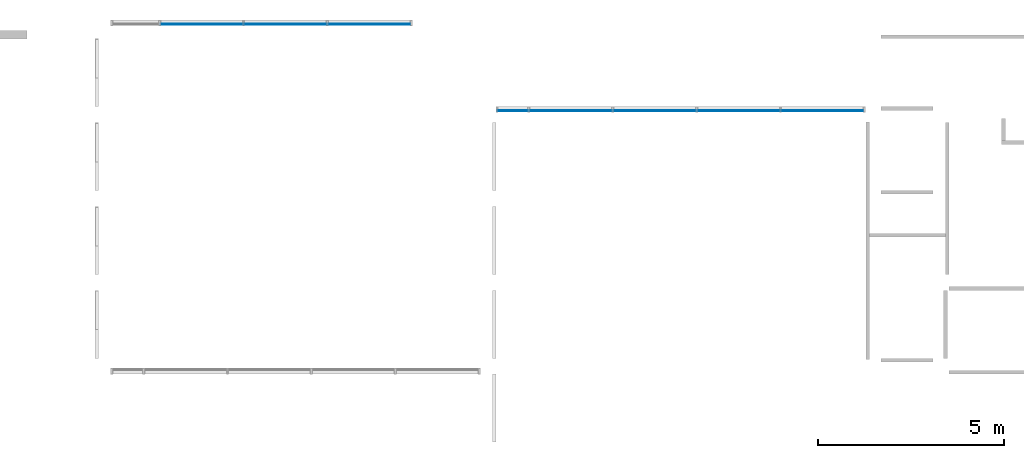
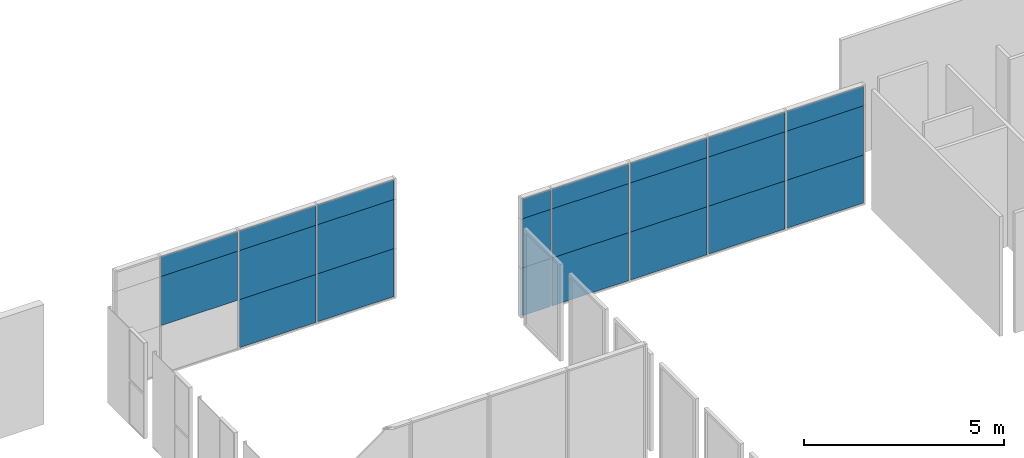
# One storey, part 9 of 15: 23 plates, 2 elements without a shape of their own.
"""IFC2X3 building model written with IfcOpenShell, lengths in millimetres."""

from ifc_helpers import new_model, entity, si_unit, converted_unit, derived_unit, direction, frame, origin, origin_2d_with_axis, place, context, subcontext, project, spatial, rectangle, extrude, source, transform, mapped, material, type_object, type_shapes, element, aggregate, save


model = new_model("IFC2X3")

# Units and contexts
model_context = context("Model", 3, precision=0.01, world=origin(), true_north=direction((6.12303176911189e-17, 1.0)))
body_context = subcontext(model_context, "Body", "Model", "MODEL_VIEW")
ifc_project = project(units=[si_unit("LENGTHUNIT", "METRE", prefix="MILLI"), si_unit("AREAUNIT", "SQUARE_METRE"), si_unit("VOLUMEUNIT", "CUBIC_METRE"), converted_unit("PLANEANGLEUNIT", "DEGREE", entity("IfcRatioMeasure", 0.0174532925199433), si_unit("PLANEANGLEUNIT", "RADIAN"), dimensions=[0, 0, 0, 0, 0, 0, 0]), si_unit("MASSUNIT", "GRAM", prefix="KILO"), derived_unit("MASSDENSITYUNIT", [(si_unit("MASSUNIT", "GRAM", prefix="KILO"), 1), (si_unit("LENGTHUNIT", "METRE"), -3)]), derived_unit("MOMENTOFINERTIAUNIT", [(si_unit("LENGTHUNIT", "METRE"), 4)]), si_unit("TIMEUNIT", "SECOND"), si_unit("FREQUENCYUNIT", "HERTZ"), si_unit("THERMODYNAMICTEMPERATUREUNIT", "DEGREE_CELSIUS"), derived_unit("THERMALTRANSMITTANCEUNIT", [(si_unit("MASSUNIT", "GRAM", prefix="KILO"), 1), (si_unit("THERMODYNAMICTEMPERATUREUNIT", "KELVIN"), -1), (si_unit("TIMEUNIT", "SECOND"), -3)]), derived_unit("VOLUMETRICFLOWRATEUNIT", [(si_unit("LENGTHUNIT", "METRE"), 3), (si_unit("TIMEUNIT", "SECOND"), -1)]), si_unit("ELECTRICCURRENTUNIT", "AMPERE"), si_unit("ELECTRICVOLTAGEUNIT", "VOLT"), si_unit("POWERUNIT", "WATT"), si_unit("FORCEUNIT", "NEWTON", prefix="KILO"), si_unit("ILLUMINANCEUNIT", "LUX"), si_unit("LUMINOUSFLUXUNIT", "LUMEN"), si_unit("LUMINOUSINTENSITYUNIT", "CANDELA"), derived_unit("USERDEFINED", [(si_unit("MASSUNIT", "GRAM", prefix="KILO"), -1), (si_unit("LENGTHUNIT", "METRE"), -2), (si_unit("TIMEUNIT", "SECOND"), 3), (si_unit("LUMINOUSFLUXUNIT", "LUMEN"), 1)]), derived_unit("LINEARVELOCITYUNIT", [(si_unit("LENGTHUNIT", "METRE"), 1), (si_unit("TIMEUNIT", "SECOND"), -1)]), si_unit("PRESSUREUNIT", "PASCAL"), derived_unit("USERDEFINED", [(si_unit("LENGTHUNIT", "METRE"), -2), (si_unit("MASSUNIT", "GRAM", prefix="KILO"), 1), (si_unit("TIMEUNIT", "SECOND"), -2)]), derived_unit("LINEARFORCEUNIT", [(si_unit("MASSUNIT", "GRAM", prefix="KILO"), 1), (si_unit("LENGTHUNIT", "METRE"), 1), (si_unit("TIMEUNIT", "SECOND"), -2), (si_unit("LENGTHUNIT", "METRE"), -1)]), derived_unit("PLANARFORCEUNIT", [(si_unit("MASSUNIT", "GRAM", prefix="KILO"), 1), (si_unit("LENGTHUNIT", "METRE"), 1), (si_unit("TIMEUNIT", "SECOND"), -2), (si_unit("LENGTHUNIT", "METRE"), -2)])], contexts=[model_context])

# Site, building, storey
site_placement = place(None, frame((10627.5135316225, 21939.0796949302, 0.0)))
site = spatial("IfcSite", under=ifc_project, at=site_placement, Name="Default", CompositionType="ELEMENT")
building_placement = place(site_placement, origin())
building = spatial("IfcBuilding", under=site, at=building_placement, CompositionType="ELEMENT")
storey_placement = place(building_placement, origin())
storey = spatial("IfcBuildingStorey", under=building, at=storey_placement, Name="RDC", CompositionType="ELEMENT", Elevation=0.0)

# Curtain wall, plates
curtain_wall_type = type_object("IfcCurtainWallType", Name="Curtain Wall:Curtain_Wall-Empty", PredefinedType="NOTDEFINED")
curtain_wall_1_placement = place(storey_placement, origin())
curtain_wall_1 = element("IfcCurtainWall", 1, at=curtain_wall_1_placement, inside=storey, type_object=curtain_wall_type, Name="Curtain Wall:Curtain_Wall-Empty", ObjectType="Curtain Wall:Curtain_Wall-Empty")
ifc_material = material(Name="Glass")
plate_type_1 = type_object("IfcPlateType", Name="System Panel:Glazed", PredefinedType="CURTAIN_PANEL", material=ifc_material)
shared_shape_1 = source(origin(), body_context, "Body", "SweptSolid", [
    extrude(rectangle(XDim=25.0, YDim=2210.0000003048, at=origin_2d_with_axis()), frame((0.0, 37.0, 0.0), z_axis=(0.0, 0.0, 1.0), x_axis=(0.0, 1.0, 0.0)), (0.0, 0.0, 1.0), 1465.0),
])
type_shapes(plate_type_1, [shared_shape_1])
plate_1_placement = place(curtain_wall_1_placement, frame((37992.486468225, 16695.9203050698, 50.0), z_axis=(0.0, 0.0, 1.0), x_axis=(-1.0, 0.0, 0.0)))
plate_1 = element("IfcPlate", 2, at=plate_1_placement, type_object=plate_type_1, material=ifc_material, Name="System Panel:Glazed", ObjectType="System Panel:Glazed", context=body_context, shape_type="MappedRepresentation", body=[
    mapped(shared_shape_1, transform((0.0, 0.0, 0.0), scale=1.0)),
])
plate_2_placement = place(curtain_wall_1_placement, frame((35732.4864680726, 16695.9203050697, 50.0), z_axis=(0.0, 0.0, 1.0), x_axis=(-1.0, 0.0, 0.0)))
plate_2 = element("IfcPlate", 3, at=plate_2_placement, type_object=plate_type_1, material=ifc_material, Name="System Panel:Glazed", ObjectType="System Panel:Glazed", context=body_context, shape_type="MappedRepresentation", body=[
    mapped(shared_shape_1, transform((0.0, 0.0, 0.0), scale=1.0)),
])

curtain_wall_2_placement = place(storey_placement, origin())
curtain_wall_2 = element("IfcCurtainWall", 4, at=curtain_wall_2_placement, inside=storey, type_object=curtain_wall_type, Name="Curtain Wall:Curtain_Wall-Empty", ObjectType="Curtain Wall:Curtain_Wall-Empty")
plate_3_placement = place(curtain_wall_2_placement, frame((50202.486468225, 14360.9203050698, 50.0), z_axis=(0.0, 0.0, 1.0), x_axis=(-1.0, 0.0, 0.0)))
plate_3 = element("IfcPlate", 5, at=plate_3_placement, type_object=plate_type_1, material=ifc_material, Name="System Panel:Glazed", ObjectType="System Panel:Glazed", context=body_context, shape_type="MappedRepresentation", body=[
    mapped(shared_shape_1, transform((0.0, 0.0, 0.0), scale=1.0)),
])
plate_4_placement = place(curtain_wall_2_placement, frame((47942.4864680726, 14360.9203050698, 50.0), z_axis=(0.0, 0.0, 1.0), x_axis=(-1.0, 0.0, 0.0)))
plate_4 = element("IfcPlate", 6, at=plate_4_placement, type_object=plate_type_1, material=ifc_material, Name="System Panel:Glazed", ObjectType="System Panel:Glazed", context=body_context, shape_type="MappedRepresentation", body=[
    mapped(shared_shape_1, transform((0.0, 0.0, 0.0), scale=1.0)),
])
plate_5_placement = place(curtain_wall_2_placement, frame((45682.4864680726, 14360.9203050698, 50.0), z_axis=(0.0, 0.0, 1.0), x_axis=(-1.0, 0.0, 0.0)))
plate_5 = element("IfcPlate", 7, at=plate_5_placement, type_object=plate_type_1, material=ifc_material, Name="System Panel:Glazed", ObjectType="System Panel:Glazed", context=body_context, shape_type="MappedRepresentation", body=[
    mapped(shared_shape_1, transform((0.0, 0.0, 0.0), scale=1.0)),
])
plate_6_placement = place(curtain_wall_2_placement, frame((43422.4864680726, 14360.9203050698, 50.0), z_axis=(0.0, 0.0, 1.0), x_axis=(-1.0, 0.0, 0.0)))
plate_6 = element("IfcPlate", 8, at=plate_6_placement, type_object=plate_type_1, material=ifc_material, Name="System Panel:Glazed", ObjectType="System Panel:Glazed", context=body_context, shape_type="MappedRepresentation", body=[
    mapped(shared_shape_1, transform((0.0, 0.0, 0.0), scale=1.0)),
])

# Plate
plate_type_2 = type_object("IfcPlateType", Name="System Panel:Glazed", PredefinedType="CURTAIN_PANEL", material=ifc_material)
shared_shape_2 = source(origin(), body_context, "Body", "SweptSolid", [
    extrude(rectangle(XDim=25.0, YDim=2210.0000003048, at=origin_2d_with_axis()), frame((0.0, 37.0, 0.0), z_axis=(0.0, 0.0, 1.0), x_axis=(0.0, 1.0, 0.0)), (0.0, 0.0, 1.0), 1500.0),
])
type_shapes(plate_type_2, [shared_shape_2])
plate_7_placement = place(curtain_wall_1_placement, frame((37992.486468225, 16695.9203050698, 1515.0), z_axis=(0.0, 0.0, 1.0), x_axis=(-1.0, 0.0, 0.0)))
plate_7 = element("IfcPlate", 9, at=plate_7_placement, type_object=plate_type_2, material=ifc_material, Name="System Panel:Glazed", ObjectType="System Panel:Glazed", context=body_context, shape_type="MappedRepresentation", body=[
    mapped(shared_shape_2, transform((0.0, 0.0, 0.0), scale=1.0)),
])

plate_8_placement = place(curtain_wall_1_placement, frame((35732.4864680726, 16695.9203050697, 1515.0), z_axis=(0.0, 0.0, 1.0), x_axis=(-1.0, 0.0, 0.0)))
plate_8 = element("IfcPlate", 10, at=plate_8_placement, type_object=plate_type_2, material=ifc_material, Name="System Panel:Glazed", ObjectType="System Panel:Glazed", context=body_context, shape_type="MappedRepresentation", body=[
    mapped(shared_shape_2, transform((0.0, 0.0, 0.0), scale=1.0)),
])

plate_9_placement = place(curtain_wall_1_placement, frame((33472.4864680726, 16695.9203050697, 1515.0), z_axis=(0.0, 0.0, 1.0), x_axis=(-1.0, 0.0, 0.0)))
plate_9 = element("IfcPlate", 11, at=plate_9_placement, type_object=plate_type_2, material=ifc_material, Name="System Panel:Glazed", ObjectType="System Panel:Glazed", context=body_context, shape_type="MappedRepresentation", body=[
    mapped(shared_shape_2, transform((0.0, 0.0, 0.0), scale=1.0)),
])

plate_10_placement = place(curtain_wall_2_placement, frame((50202.486468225, 14360.9203050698, 1515.0), z_axis=(0.0, 0.0, 1.0), x_axis=(-1.0, 0.0, 0.0)))
plate_10 = element("IfcPlate", 12, at=plate_10_placement, type_object=plate_type_2, material=ifc_material, Name="System Panel:Glazed", ObjectType="System Panel:Glazed", context=body_context, shape_type="MappedRepresentation", body=[
    mapped(shared_shape_2, transform((0.0, 0.0, 0.0), scale=1.0)),
])

plate_11_placement = place(curtain_wall_2_placement, frame((47942.4864680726, 14360.9203050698, 1515.0), z_axis=(0.0, 0.0, 1.0), x_axis=(-1.0, 0.0, 0.0)))
plate_11 = element("IfcPlate", 13, at=plate_11_placement, type_object=plate_type_2, material=ifc_material, Name="System Panel:Glazed", ObjectType="System Panel:Glazed", context=body_context, shape_type="MappedRepresentation", body=[
    mapped(shared_shape_2, transform((0.0, 0.0, 0.0), scale=1.0)),
])

plate_12_placement = place(curtain_wall_2_placement, frame((45682.4864680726, 14360.9203050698, 1515.0), z_axis=(0.0, 0.0, 1.0), x_axis=(-1.0, 0.0, 0.0)))
plate_12 = element("IfcPlate", 14, at=plate_12_placement, type_object=plate_type_2, material=ifc_material, Name="System Panel:Glazed", ObjectType="System Panel:Glazed", context=body_context, shape_type="MappedRepresentation", body=[
    mapped(shared_shape_2, transform((0.0, 0.0, 0.0), scale=1.0)),
])

plate_13_placement = place(curtain_wall_2_placement, frame((43422.4864680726, 14360.9203050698, 1515.0), z_axis=(0.0, 0.0, 1.0), x_axis=(-1.0, 0.0, 0.0)))
plate_13 = element("IfcPlate", 15, at=plate_13_placement, type_object=plate_type_2, material=ifc_material, Name="System Panel:Glazed", ObjectType="System Panel:Glazed", context=body_context, shape_type="MappedRepresentation", body=[
    mapped(shared_shape_2, transform((0.0, 0.0, 0.0), scale=1.0)),
])

plate_type_3 = type_object("IfcPlateType", Name="System Panel:Glazed", PredefinedType="CURTAIN_PANEL", material=ifc_material)
shared_shape_3 = source(origin(), body_context, "Body", "SweptSolid", [
    extrude(rectangle(XDim=25.0, YDim=2210.0000003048, at=origin_2d_with_axis()), frame((0.0, 37.0, 0.0), z_axis=(0.0, 0.0, 1.0), x_axis=(0.0, 1.0, 0.0)), (0.0, 0.0, 1.0), 595.0),
])
type_shapes(plate_type_3, [shared_shape_3])
plate_14_placement = place(curtain_wall_1_placement, frame((37992.486468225, 16695.9203050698, 3015.0), z_axis=(0.0, 0.0, 1.0), x_axis=(-1.0, 0.0, 0.0)))
plate_14 = element("IfcPlate", 16, at=plate_14_placement, type_object=plate_type_3, material=ifc_material, Name="System Panel:Glazed", ObjectType="System Panel:Glazed", context=body_context, shape_type="MappedRepresentation", body=[
    mapped(shared_shape_3, transform((0.0, 0.0, 0.0), scale=1.0)),
])

plate_15_placement = place(curtain_wall_1_placement, frame((35732.4864680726, 16695.9203050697, 3015.0), z_axis=(0.0, 0.0, 1.0), x_axis=(-1.0, 0.0, 0.0)))
plate_15 = element("IfcPlate", 17, at=plate_15_placement, type_object=plate_type_3, material=ifc_material, Name="System Panel:Glazed", ObjectType="System Panel:Glazed", context=body_context, shape_type="MappedRepresentation", body=[
    mapped(shared_shape_3, transform((0.0, 0.0, 0.0), scale=1.0)),
])

plate_16_placement = place(curtain_wall_1_placement, frame((33472.4864680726, 16695.9203050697, 3015.0), z_axis=(0.0, 0.0, 1.0), x_axis=(-1.0, 0.0, 0.0)))
plate_16 = element("IfcPlate", 18, at=plate_16_placement, type_object=plate_type_3, material=ifc_material, Name="System Panel:Glazed", ObjectType="System Panel:Glazed", context=body_context, shape_type="MappedRepresentation", body=[
    mapped(shared_shape_3, transform((0.0, 0.0, 0.0), scale=1.0)),
])

aggregate(curtain_wall_1, [plate_1, plate_2, plate_7, plate_8, plate_9, plate_14, plate_15, plate_16])

plate_17_placement = place(curtain_wall_2_placement, frame((50202.486468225, 14360.9203050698, 3015.0), z_axis=(0.0, 0.0, 1.0), x_axis=(-1.0, 0.0, 0.0)))
plate_17 = element("IfcPlate", 19, at=plate_17_placement, type_object=plate_type_3, material=ifc_material, Name="System Panel:Glazed", ObjectType="System Panel:Glazed", context=body_context, shape_type="MappedRepresentation", body=[
    mapped(shared_shape_3, transform((0.0, 0.0, 0.0), scale=1.0)),
])

plate_18_placement = place(curtain_wall_2_placement, frame((47942.4864680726, 14360.9203050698, 3015.0), z_axis=(0.0, 0.0, 1.0), x_axis=(-1.0, 0.0, 0.0)))
plate_18 = element("IfcPlate", 20, at=plate_18_placement, type_object=plate_type_3, material=ifc_material, Name="System Panel:Glazed", ObjectType="System Panel:Glazed", context=body_context, shape_type="MappedRepresentation", body=[
    mapped(shared_shape_3, transform((0.0, 0.0, 0.0), scale=1.0)),
])

plate_19_placement = place(curtain_wall_2_placement, frame((45682.4864680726, 14360.9203050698, 3015.0), z_axis=(0.0, 0.0, 1.0), x_axis=(-1.0, 0.0, 0.0)))
plate_19 = element("IfcPlate", 21, at=plate_19_placement, type_object=plate_type_3, material=ifc_material, Name="System Panel:Glazed", ObjectType="System Panel:Glazed", context=body_context, shape_type="MappedRepresentation", body=[
    mapped(shared_shape_3, transform((0.0, 0.0, 0.0), scale=1.0)),
])

plate_20_placement = place(curtain_wall_2_placement, frame((43422.4864680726, 14360.9203050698, 3015.0), z_axis=(0.0, 0.0, 1.0), x_axis=(-1.0, 0.0, 0.0)))
plate_20 = element("IfcPlate", 22, at=plate_20_placement, type_object=plate_type_3, material=ifc_material, Name="System Panel:Glazed", ObjectType="System Panel:Glazed", context=body_context, shape_type="MappedRepresentation", body=[
    mapped(shared_shape_3, transform((0.0, 0.0, 0.0), scale=1.0)),
])

plate_type_4 = type_object("IfcPlateType", Name="System Panel:Glazed", PredefinedType="CURTAIN_PANEL", material=ifc_material)
shared_shape_4 = source(origin(), body_context, "Body", "SweptSolid", [
    extrude(rectangle(XDim=25.0, YDim=809.999999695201, at=origin_2d_with_axis()), frame((0.0, 37.0, 0.0), z_axis=(0.0, 0.0, 1.0), x_axis=(0.0, 1.0, 0.0)), (0.0, 0.0, 1.0), 1465.0),
])
type_shapes(plate_type_4, [shared_shape_4])
plate_21_placement = place(curtain_wall_2_placement, frame((41862.486468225, 14360.9203050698, 50.0), z_axis=(0.0, 0.0, 1.0), x_axis=(-1.0, 0.0, 0.0)))
plate_21 = element("IfcPlate", 23, at=plate_21_placement, type_object=plate_type_4, material=ifc_material, Name="System Panel:Glazed", ObjectType="System Panel:Glazed", context=body_context, shape_type="MappedRepresentation", body=[
    mapped(shared_shape_4, transform((0.0, 0.0, 0.0), scale=1.0)),
])

plate_type_5 = type_object("IfcPlateType", Name="System Panel:Glazed", PredefinedType="CURTAIN_PANEL", material=ifc_material)
shared_shape_5 = source(origin(), body_context, "Body", "SweptSolid", [
    extrude(rectangle(XDim=25.0, YDim=809.999999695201, at=origin_2d_with_axis()), frame((0.0, 37.0, 0.0), z_axis=(0.0, 0.0, 1.0), x_axis=(0.0, 1.0, 0.0)), (0.0, 0.0, 1.0), 1500.0),
])
type_shapes(plate_type_5, [shared_shape_5])
plate_22_placement = place(curtain_wall_2_placement, frame((41862.486468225, 14360.9203050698, 1515.0), z_axis=(0.0, 0.0, 1.0), x_axis=(-1.0, 0.0, 0.0)))
plate_22 = element("IfcPlate", 24, at=plate_22_placement, type_object=plate_type_5, material=ifc_material, Name="System Panel:Glazed", ObjectType="System Panel:Glazed", context=body_context, shape_type="MappedRepresentation", body=[
    mapped(shared_shape_5, transform((0.0, 0.0, 0.0), scale=1.0)),
])

plate_type_6 = type_object("IfcPlateType", Name="System Panel:Glazed", PredefinedType="CURTAIN_PANEL", material=ifc_material)
shared_shape_6 = source(origin(), body_context, "Body", "SweptSolid", [
    extrude(rectangle(XDim=25.0, YDim=809.999999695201, at=origin_2d_with_axis()), frame((0.0, 37.0, 0.0), z_axis=(0.0, 0.0, 1.0), x_axis=(0.0, 1.0, 0.0)), (0.0, 0.0, 1.0), 594.999999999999),
])
type_shapes(plate_type_6, [shared_shape_6])
plate_23_placement = place(curtain_wall_2_placement, frame((41862.486468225, 14360.9203050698, 3015.0), z_axis=(0.0, 0.0, 1.0), x_axis=(-1.0, 0.0, 0.0)))
plate_23 = element("IfcPlate", 25, at=plate_23_placement, type_object=plate_type_6, material=ifc_material, Name="System Panel:Glazed", ObjectType="System Panel:Glazed", context=body_context, shape_type="MappedRepresentation", body=[
    mapped(shared_shape_6, transform((0.0, 0.0, 0.0), scale=1.0)),
])

aggregate(curtain_wall_2, [plate_3, plate_4, plate_5, plate_6, plate_21, plate_10, plate_11, plate_12, plate_13, plate_22, plate_17, plate_18, plate_19, plate_20, plate_23])

save(model, "model.ifc")
